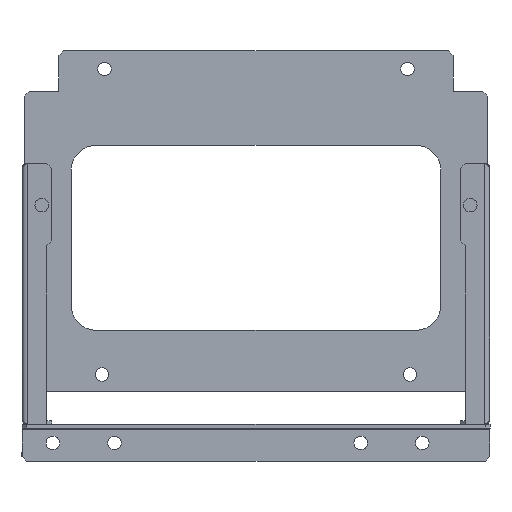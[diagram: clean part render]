
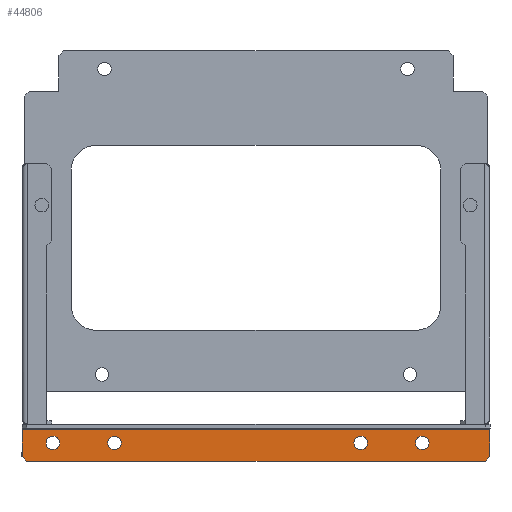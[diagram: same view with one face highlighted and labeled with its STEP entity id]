
A CAD part, left-side view. The second image highlights one B-rep face of the part: STEP entity #44806.
In plain terms, the highlighted planar face has unit normal (-1, 0, 0) as drawn and (1, 0, 0) by its records, which use the part's own axes.
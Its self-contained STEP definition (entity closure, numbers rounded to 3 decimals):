
#43511=CARTESIAN_POINT(' ',(-97.5,-42.5,8.75));
#43512=VERTEX_POINT(' ',#43511);
#43526=CARTESIAN_POINT(' ',(-97.5,-42.5,6.));
#43531=DIRECTION(' ',(1.,0.,0.));
#43536=DIRECTION(' ',(0.,0.,1.));
#43541=AXIS2_PLACEMENT_3D(' ',#43526,#43531,#43536);
#43546=CIRCLE('',#43541,2.75);
#43551=CARTESIAN_POINT(' ',(-97.5,-42.5,3.25));
#43552=VERTEX_POINT(' ',#43551);
#43556=EDGE_CURVE(' ',#43512,#43552,#43546,.T.);
#44221=CARTESIAN_POINT(' ',(-97.5,-42.5,6.));
#44226=DIRECTION(' ',(1.,0.,0.));
#44231=DIRECTION(' ',(0.,0.,-1.));
#44236=AXIS2_PLACEMENT_3D(' ',#44221,#44226,#44231);
#44241=CIRCLE('',#44236,2.75);
#44246=EDGE_CURVE(' ',#43552,#43512,#44241,.T.);
#44271=DIRECTION(' ',(1.,0.,0.));
#44276=CARTESIAN_POINT(' ',(-97.5,-95.,13.5));
#44281=DIRECTION(' ',(0.,0.,-1.));
#44286=AXIS2_PLACEMENT_3D(' ',#44276,#44271,#44281);
#44291=PLANE('NONE',#44286);
#44296=CARTESIAN_POINT(' ',(-97.5,-93.,13.5));
#44301=DIRECTION(' ',(0.,1.,0.));
#44306=VECTOR(' ',#44301,1.);
#44311=LINE('',#44296,#44306);
#44316=CARTESIAN_POINT(' ',(-97.5,-93.,13.5));
#44317=VERTEX_POINT(' ',#44316);
#44321=CARTESIAN_POINT(' ',(-97.5,93.,13.5));
#44322=VERTEX_POINT(' ',#44321);
#44326=EDGE_CURVE(' ',#44317,#44322,#44311,.T.);
#44331=ORIENTED_EDGE(' ',*,*,#44326,.F.);
#44336=CARTESIAN_POINT(' ',(-97.5,-93.,13.5));
#44341=DIRECTION(' ',(0.,-0.707,-0.707));
#44346=VECTOR(' ',#44341,1.);
#44351=LINE('',#44336,#44346);
#44356=CARTESIAN_POINT(' ',(-97.5,-95.,11.5));
#44357=VERTEX_POINT(' ',#44356);
#44361=EDGE_CURVE(' ',#44317,#44357,#44351,.T.);
#44366=ORIENTED_EDGE(' ',*,*,#44361,.T.);
#44371=CARTESIAN_POINT(' ',(-97.5,-95.,0.6));
#44376=DIRECTION(' ',(0.,0.,1.));
#44381=VECTOR(' ',#44376,1.);
#44386=LINE('',#44371,#44381);
#44391=CARTESIAN_POINT(' ',(-97.5,-95.,0.6));
#44392=VERTEX_POINT(' ',#44391);
#44396=EDGE_CURVE(' ',#44392,#44357,#44386,.T.);
#44401=ORIENTED_EDGE(' ',*,*,#44396,.F.);
#44406=CARTESIAN_POINT(' ',(-97.5,95.,0.6));
#44411=DIRECTION(' ',(0.,-1.,0.));
#44416=VECTOR(' ',#44411,1.);
#44421=LINE('',#44406,#44416);
#44426=CARTESIAN_POINT(' ',(-97.5,95.,0.6));
#44427=VERTEX_POINT(' ',#44426);
#44431=EDGE_CURVE(' ',#44427,#44392,#44421,.T.);
#44436=ORIENTED_EDGE(' ',*,*,#44431,.F.);
#44441=CARTESIAN_POINT(' ',(-97.5,95.,11.5));
#44446=DIRECTION(' ',(0.,0.,-1.));
#44451=VECTOR(' ',#44446,1.);
#44456=LINE('',#44441,#44451);
#44461=CARTESIAN_POINT(' ',(-97.5,95.,11.5));
#44462=VERTEX_POINT(' ',#44461);
#44466=EDGE_CURVE(' ',#44462,#44427,#44456,.T.);
#44471=ORIENTED_EDGE(' ',*,*,#44466,.F.);
#44476=CARTESIAN_POINT(' ',(-97.5,95.,11.5));
#44481=DIRECTION(' ',(0.,-0.707,0.707));
#44486=VECTOR(' ',#44481,1.);
#44491=LINE('',#44476,#44486);
#44496=EDGE_CURVE(' ',#44462,#44322,#44491,.T.);
#44501=ORIENTED_EDGE(' ',*,*,#44496,.T.);
#44506=EDGE_LOOP(' ',(#44331,#44366,#44401,#44436,#44471,#44501));
#44511=FACE_OUTER_BOUND(' ',#44506,.T.);
#44516=ORIENTED_EDGE(' ',*,*,#44246,.F.);
#44521=ORIENTED_EDGE(' ',*,*,#43556,.F.);
#44526=EDGE_LOOP(' ',(#44516,#44521));
#44531=FACE_BOUND(' ',#44526,.T.);
#44536=CARTESIAN_POINT(' ',(-97.5,82.5,6.));
#44541=DIRECTION(' ',(-1.,0.,0.));
#44546=DIRECTION(' ',(0.,0.,1.));
#44551=AXIS2_PLACEMENT_3D(' ',#44536,#44541,#44546);
#44556=CIRCLE('',#44551,2.75);
#44561=CARTESIAN_POINT(' ',(-97.5,82.5,8.75));
#44562=VERTEX_POINT(' ',#44561);
#44566=CARTESIAN_POINT(' ',(-97.5,82.5,3.25));
#44567=VERTEX_POINT(' ',#44566);
#44571=EDGE_CURVE(' ',#44562,#44567,#44556,.T.);
#44576=ORIENTED_EDGE(' ',*,*,#44571,.T.);
#44581=CARTESIAN_POINT(' ',(-97.5,82.5,6.));
#44586=DIRECTION(' ',(-1.,0.,0.));
#44591=DIRECTION(' ',(0.,0.,-1.));
#44596=AXIS2_PLACEMENT_3D(' ',#44581,#44586,#44591);
#44601=CIRCLE('',#44596,2.75);
#44606=EDGE_CURVE(' ',#44567,#44562,#44601,.T.);
#44611=ORIENTED_EDGE(' ',*,*,#44606,.T.);
#44616=EDGE_LOOP(' ',(#44576,#44611));
#44621=FACE_BOUND(' ',#44616,.T.);
#44626=CARTESIAN_POINT(' ',(-97.5,-67.5,6.));
#44631=DIRECTION(' ',(-1.,0.,0.));
#44636=DIRECTION(' ',(0.,0.,1.));
#44641=AXIS2_PLACEMENT_3D(' ',#44626,#44631,#44636);
#44646=CIRCLE('',#44641,2.75);
#44651=CARTESIAN_POINT(' ',(-97.5,-67.5,8.75));
#44652=VERTEX_POINT(' ',#44651);
#44656=CARTESIAN_POINT(' ',(-97.5,-67.5,3.25));
#44657=VERTEX_POINT(' ',#44656);
#44661=EDGE_CURVE(' ',#44652,#44657,#44646,.T.);
#44666=ORIENTED_EDGE(' ',*,*,#44661,.T.);
#44671=CARTESIAN_POINT(' ',(-97.5,-67.5,6.));
#44676=DIRECTION(' ',(-1.,0.,0.));
#44681=DIRECTION(' ',(0.,0.,-1.));
#44686=AXIS2_PLACEMENT_3D(' ',#44671,#44676,#44681);
#44691=CIRCLE('',#44686,2.75);
#44696=EDGE_CURVE(' ',#44657,#44652,#44691,.T.);
#44701=ORIENTED_EDGE(' ',*,*,#44696,.T.);
#44706=EDGE_LOOP(' ',(#44666,#44701));
#44711=FACE_BOUND(' ',#44706,.T.);
#44716=CARTESIAN_POINT(' ',(-97.5,57.5,6.));
#44721=DIRECTION(' ',(1.,0.,0.));
#44726=DIRECTION(' ',(0.,0.,-1.));
#44731=AXIS2_PLACEMENT_3D(' ',#44716,#44721,#44726);
#44736=CIRCLE('',#44731,2.75);
#44741=CARTESIAN_POINT(' ',(-97.5,57.5,3.25));
#44742=VERTEX_POINT(' ',#44741);
#44746=CARTESIAN_POINT(' ',(-97.5,57.5,8.75));
#44747=VERTEX_POINT(' ',#44746);
#44751=EDGE_CURVE(' ',#44742,#44747,#44736,.T.);
#44756=ORIENTED_EDGE(' ',*,*,#44751,.F.);
#44761=CARTESIAN_POINT(' ',(-97.5,57.5,6.));
#44766=DIRECTION(' ',(1.,0.,0.));
#44771=DIRECTION(' ',(0.,0.,1.));
#44776=AXIS2_PLACEMENT_3D(' ',#44761,#44766,#44771);
#44781=CIRCLE('',#44776,2.75);
#44786=EDGE_CURVE(' ',#44747,#44742,#44781,.T.);
#44791=ORIENTED_EDGE(' ',*,*,#44786,.F.);
#44796=EDGE_LOOP(' ',(#44756,#44791));
#44801=FACE_BOUND(' ',#44796,.T.);
#44806=ADVANCED_FACE('NONE',(#44511,#44531,#44621,#44711,#44801),#44291,.T.);
